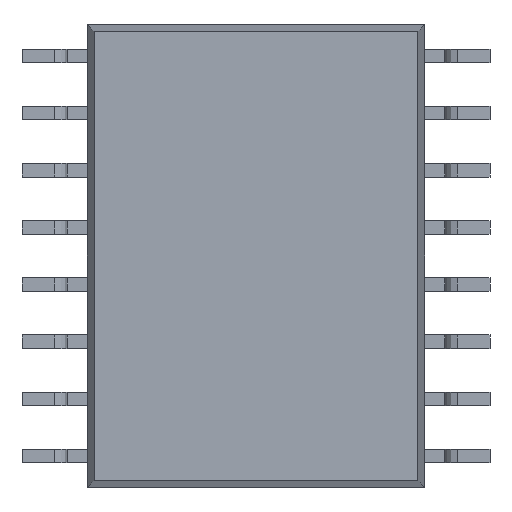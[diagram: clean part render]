
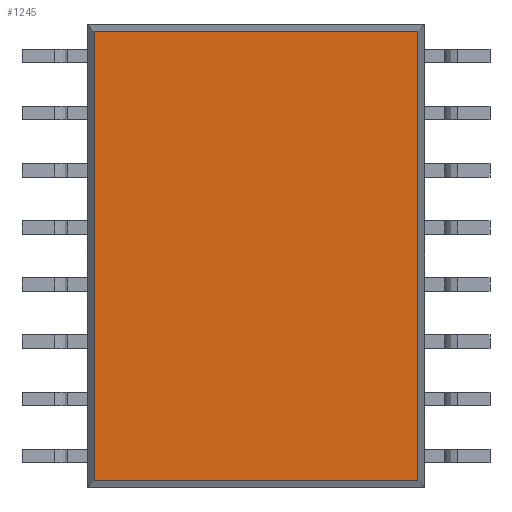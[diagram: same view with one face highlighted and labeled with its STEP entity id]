
A CAD part, front view. The second image highlights one B-rep face of the part: STEP entity #1245.
In plain terms, the highlighted planar face has unit normal (0, -1, 0).
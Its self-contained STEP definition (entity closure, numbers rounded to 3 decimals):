
#1103 = VERTEX_POINT('',#1104);
#1104 = CARTESIAN_POINT('',(3.597,0.265,4.994));
#1110 = EDGE_CURVE('',#1103,#1111,#1113,.T.);
#1111 = VERTEX_POINT('',#1112);
#1112 = CARTESIAN_POINT('',(3.597,0.265,-4.994));
#1113 = LINE('',#1114,#1115);
#1114 = CARTESIAN_POINT('',(3.597,0.265,13.074));
#1115 = VECTOR('',#1116,1.);
#1116 = DIRECTION('',(0.,0.,-1.));
#1226 = EDGE_CURVE('',#1111,#1227,#1229,.T.);
#1227 = VERTEX_POINT('',#1228);
#1228 = CARTESIAN_POINT('',(-3.597,0.265,-4.994));
#1229 = LINE('',#1230,#1231);
#1230 = CARTESIAN_POINT('',(13.074,0.265,-4.994));
#1231 = VECTOR('',#1232,1.);
#1232 = DIRECTION('',(-1.,0.,0.));
#1245 = ADVANCED_FACE('',(#1246),#1264,.F.);
#1246 = FACE_BOUND('',#1247,.F.);
#1247 = EDGE_LOOP('',(#1248,#1256,#1257,#1258));
#1248 = ORIENTED_EDGE('',*,*,#1249,.F.);
#1249 = EDGE_CURVE('',#1103,#1250,#1252,.T.);
#1250 = VERTEX_POINT('',#1251);
#1251 = CARTESIAN_POINT('',(-3.597,0.265,4.994));
#1252 = LINE('',#1253,#1254);
#1253 = CARTESIAN_POINT('',(13.074,0.265,4.994));
#1254 = VECTOR('',#1255,1.);
#1255 = DIRECTION('',(-1.,0.,0.));
#1256 = ORIENTED_EDGE('',*,*,#1110,.T.);
#1257 = ORIENTED_EDGE('',*,*,#1226,.T.);
#1258 = ORIENTED_EDGE('',*,*,#1259,.F.);
#1259 = EDGE_CURVE('',#1250,#1227,#1260,.T.);
#1260 = LINE('',#1261,#1262);
#1261 = CARTESIAN_POINT('',(-3.597,0.265,13.074));
#1262 = VECTOR('',#1263,1.);
#1263 = DIRECTION('',(0.,0.,-1.));
#1264 = PLANE('',#1265);
#1265 = AXIS2_PLACEMENT_3D('',#1266,#1267,#1268);
#1266 = CARTESIAN_POINT('',(0.,0.265,0.));
#1267 = DIRECTION('',(0.,1.,0.));
#1268 = DIRECTION('',(0.,0.,1.));
